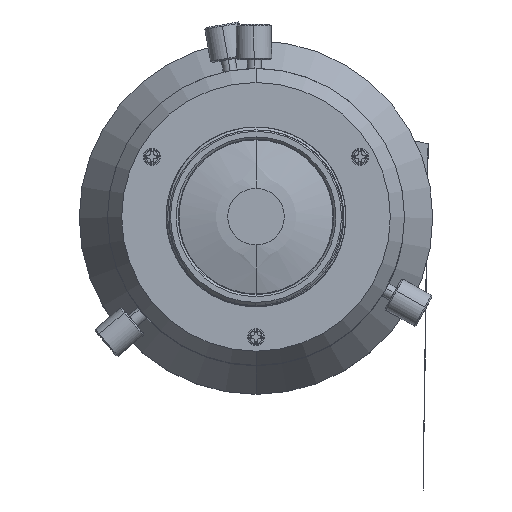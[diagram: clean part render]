
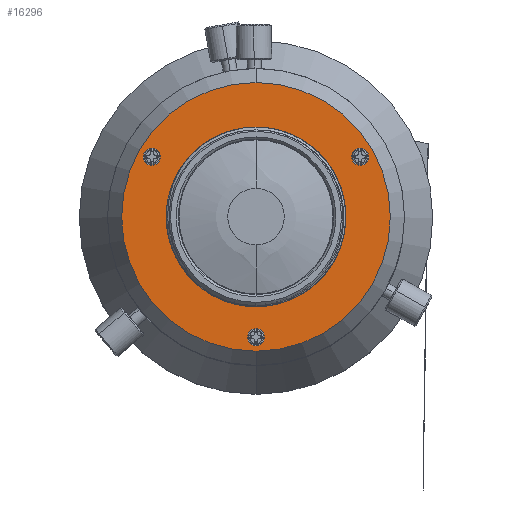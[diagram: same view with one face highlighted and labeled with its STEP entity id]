
A CAD part, top view. The second image highlights one B-rep face of the part: STEP entity #16296.
In plain terms, the highlighted planar face has unit normal (0, 0, 1) as drawn and (0, -1, 0) by its records, which use the part's own axes.
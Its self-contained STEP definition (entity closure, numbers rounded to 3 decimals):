
#14838=CARTESIAN_POINT('',(0.,-2.674,0.));
#14839=DIRECTION('',(0.,1.,0.));
#14840=DIRECTION('',(0.,0.,-1.));
#14841=AXIS2_PLACEMENT_3D('',#14838,#14839,#14840);
#14843=CARTESIAN_POINT('',(0.,-2.674,0.));
#14844=DIRECTION('',(0.,1.,0.));
#14845=DIRECTION('',(0.,0.,1.));
#14846=AXIS2_PLACEMENT_3D('',#14843,#14844,#14845);
#14848=CARTESIAN_POINT('',(0.,-2.674,0.));
#14849=DIRECTION('',(0.,-1.,0.));
#14850=DIRECTION('',(0.,0.,1.));
#14851=AXIS2_PLACEMENT_3D('',#14848,#14849,#14850);
#14853=CARTESIAN_POINT('',(0.,-2.674,0.));
#14854=DIRECTION('',(0.,-1.,0.));
#14855=DIRECTION('',(0.,0.,-1.));
#14856=AXIS2_PLACEMENT_3D('',#14853,#14854,#14855);
#14858=CARTESIAN_POINT('',(0.,-2.674,-17.));
#14859=DIRECTION('',(0.,-1.,0.));
#14860=DIRECTION('',(0.,0.,-1.));
#14861=AXIS2_PLACEMENT_3D('',#14858,#14859,#14860);
#14863=CARTESIAN_POINT('',(0.,-2.674,-17.));
#14864=DIRECTION('',(0.,-1.,0.));
#14865=DIRECTION('',(0.,0.,1.));
#14866=AXIS2_PLACEMENT_3D('',#14863,#14864,#14865);
#14868=CARTESIAN_POINT('',(14.722,-2.674,8.5));
#14869=DIRECTION('',(0.,-1.,0.));
#14870=DIRECTION('',(0.866,0.,0.5));
#14871=AXIS2_PLACEMENT_3D('',#14868,#14869,#14870);
#14873=CARTESIAN_POINT('',(14.722,-2.674,8.5));
#14874=DIRECTION('',(0.,-1.,0.));
#14875=DIRECTION('',(-0.866,0.,-0.5));
#14876=AXIS2_PLACEMENT_3D('',#14873,#14874,#14875);
#14878=CARTESIAN_POINT('',(-14.722,-2.674,8.5));
#14879=DIRECTION('',(0.,-1.,0.));
#14880=DIRECTION('',(-0.866,0.,0.5));
#14881=AXIS2_PLACEMENT_3D('',#14878,#14879,#14880);
#14883=CARTESIAN_POINT('',(-14.722,-2.674,8.5));
#14884=DIRECTION('',(0.,-1.,0.));
#14885=DIRECTION('',(0.866,0.,-0.5));
#14886=AXIS2_PLACEMENT_3D('',#14883,#14884,#14885);
#16039=CARTESIAN_POINT('',(0.,-2.674,-18.2));
#16040=CARTESIAN_POINT('',(0.,-2.674,-15.8));
#16041=VERTEX_POINT('',#16039);
#16042=VERTEX_POINT('',#16040);
#16043=CARTESIAN_POINT('',(0.,-2.674,-19.));
#16044=CARTESIAN_POINT('',(0.,-2.674,19.));
#16045=VERTEX_POINT('',#16043);
#16046=VERTEX_POINT('',#16044);
#16047=CARTESIAN_POINT('',(0.,-2.674,12.2));
#16048=CARTESIAN_POINT('',(0.,-2.674,-12.2));
#16049=VERTEX_POINT('',#16047);
#16050=VERTEX_POINT('',#16048);
#16051=CARTESIAN_POINT('',(15.762,-2.674,9.1));
#16052=CARTESIAN_POINT('',(13.683,-2.674,7.9));
#16053=VERTEX_POINT('',#16051);
#16054=VERTEX_POINT('',#16052);
#16055=CARTESIAN_POINT('',(-15.762,-2.674,9.1));
#16056=CARTESIAN_POINT('',(-13.683,-2.674,7.9));
#16057=VERTEX_POINT('',#16055);
#16058=VERTEX_POINT('',#16056);
#16263=CARTESIAN_POINT('',(0.,-2.674,0.));
#16264=DIRECTION('',(0.,-1.,0.));
#16265=DIRECTION('',(0.,0.,1.));
#16266=AXIS2_PLACEMENT_3D('',#16263,#16264,#16265);
#16267=PLANE('',#16266);
#16268=ORIENTED_EDGE('',*,*,#16243,.T.);
#16269=ORIENTED_EDGE('',*,*,#16257,.T.);
#16270=EDGE_LOOP('',(#16268,#16269));
#16271=FACE_OUTER_BOUND('',#16270,.F.);
#16273=ORIENTED_EDGE('',*,*,#16272,.T.);
#16275=ORIENTED_EDGE('',*,*,#16274,.T.);
#16276=EDGE_LOOP('',(#16273,#16275));
#16277=FACE_BOUND('',#16276,.F.);
#16279=ORIENTED_EDGE('',*,*,#16278,.T.);
#16281=ORIENTED_EDGE('',*,*,#16280,.T.);
#16282=EDGE_LOOP('',(#16279,#16281));
#16283=FACE_BOUND('',#16282,.F.);
#16285=ORIENTED_EDGE('',*,*,#16284,.T.);
#16287=ORIENTED_EDGE('',*,*,#16286,.T.);
#16288=EDGE_LOOP('',(#16285,#16287));
#16289=FACE_BOUND('',#16288,.F.);
#16291=ORIENTED_EDGE('',*,*,#16290,.T.);
#16293=ORIENTED_EDGE('',*,*,#16292,.T.);
#16294=EDGE_LOOP('',(#16291,#16293));
#16295=FACE_BOUND('',#16294,.F.);
#16296=ADVANCED_FACE('',(#16271,#16277,#16283,#16289,#16295),#16267,.T.);
#14842=CIRCLE('',#14841,19.);
#14847=CIRCLE('',#14846,19.);
#14852=CIRCLE('',#14851,12.2);
#14857=CIRCLE('',#14856,12.2);
#14862=CIRCLE('',#14861,1.2);
#14867=CIRCLE('',#14866,1.2);
#14872=CIRCLE('',#14871,1.2);
#14877=CIRCLE('',#14876,1.2);
#14882=CIRCLE('',#14881,1.2);
#14887=CIRCLE('',#14886,1.2);
#16243=EDGE_CURVE('',#16045,#16046,#14842,.T.);
#16257=EDGE_CURVE('',#16046,#16045,#14847,.T.);
#16272=EDGE_CURVE('',#16049,#16050,#14852,.T.);
#16274=EDGE_CURVE('',#16050,#16049,#14857,.T.);
#16278=EDGE_CURVE('',#16041,#16042,#14862,.T.);
#16280=EDGE_CURVE('',#16042,#16041,#14867,.T.);
#16284=EDGE_CURVE('',#16053,#16054,#14872,.T.);
#16286=EDGE_CURVE('',#16054,#16053,#14877,.T.);
#16290=EDGE_CURVE('',#16057,#16058,#14882,.T.);
#16292=EDGE_CURVE('',#16058,#16057,#14887,.T.);
